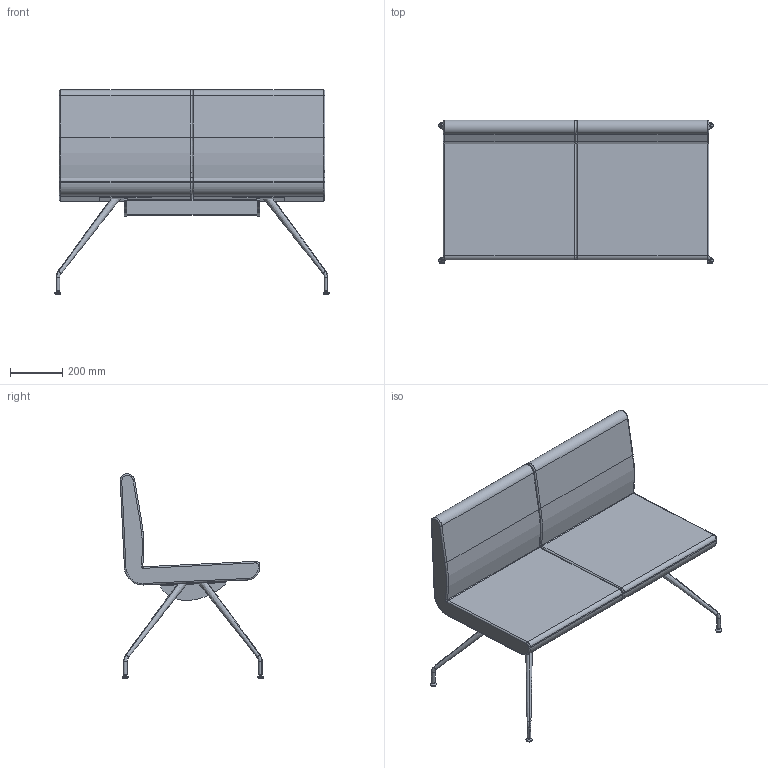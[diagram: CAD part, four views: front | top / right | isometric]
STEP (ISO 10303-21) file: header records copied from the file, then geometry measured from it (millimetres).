
FILE_DESCRIPTION(/* description */ (''),/* implementation_level */ '2;1');
FILE_NAME(/* name */ 'DELTA2~2',/* time_stamp */ '2016-06-16T16:16:46+02:00',/* author */ (''),/* organization */ (''),/* preprocessor_version */ 'ST-DEVELOPER v15',/* originating_system */ '',/* authorisation */ '');
FILE_SCHEMA (('CONFIG_CONTROL_DESIGN'));
Length unit declared in the file: millimetre
Products named in the file (1): Document
Bounding box: 1054 x 550.99 x 785.18 mm (x, y, z)
Volume: 61544056.5 mm3; surface area: 2598668.1 mm2
Topology: 6 solids, 15 shells, 186 faces, 425 edges, 262 vertices
Faces by surface type: bspline 162, plane 24
Entity records: 6421 total; most frequent: CARTESIAN_POINT 4114, ORIENTED_EDGE 804, EDGE_CURVE 422, VERTEX_POINT 256, EDGE_LOOP 190, ADVANCED_FACE 186, FACE_OUTER_BOUND 186, B_SPLINE_CURVE_WITH_KNOTS 48
